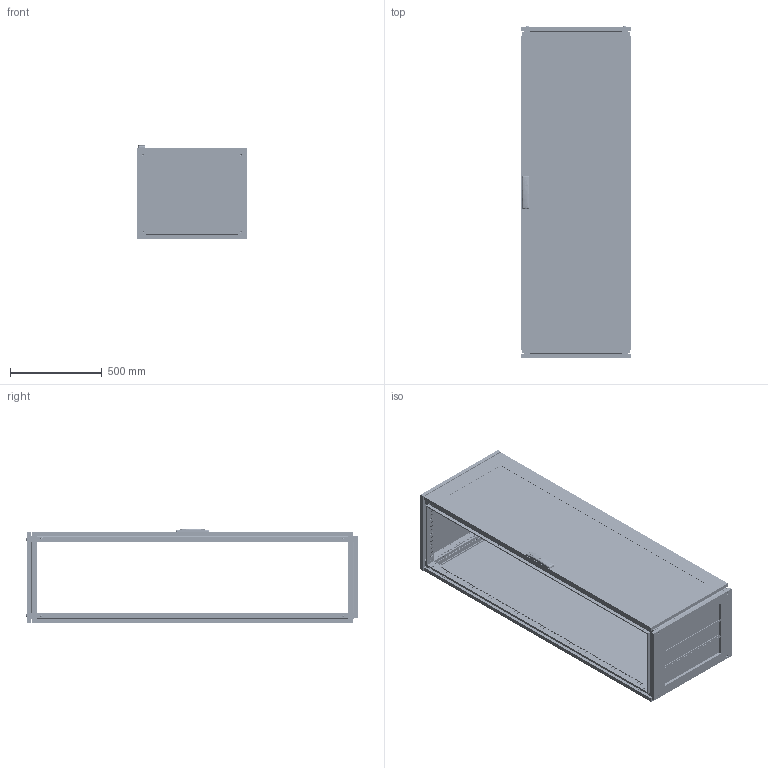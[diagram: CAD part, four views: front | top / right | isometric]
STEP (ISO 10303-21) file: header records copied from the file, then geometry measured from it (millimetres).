
FILE_DESCRIPTION (( 'STEP AP203' ), '1' );
FILE_NAME ('R5CQEN1865AX.STEP', '2025-05-07T11:56:37', ( '' ), ( '' ), 'SwSTEP 2.0', 'SolidWorks 2022', '' );
FILE_SCHEMA (( 'CONFIG_CONTROL_DESIGN' ));
Length unit declared in the file: millimetre
Products named in the file (65): RB.2685.00.00.0 simple_-01; M6x10 DIN 7500 E HX cl.5.8 Zinc_straight; R5CQEN1865AX; 7 DIN 6799 Zinc simple; RB.2052.01.00.0 СБ simple_-17; Pressing stud FH-M6-12_M6x12mm; M6 DIN 985 cl.6,0 Zinc_straight; M8x12 AC00C476 cl.8,8 Zinc_stright; RB.0528.04.00.0 СБ simple; RB.2499.01.00.0 СБ simple_-12; RB.2455.00.00.0 simple_-02; R5NKTB - Assem simple_H=1800 R5NKTB65; RB.2696.00.00.0 simple; PF 7x14 CRE simple_1800x0600; PF 5x10 KTB simple_600х500; RB.2680.00.00.0 СБ simple; RB.2357.00.00.0 simple_-03; RB.0562.01.01.0 simple_-12; M6 MGR-MKO-0625 simple_Thread; M6x10 DIN 7500 M Torx cl.5.8 Zinc_straight; RB.1867.01.00.0 СБ simple_-55; R5NCPTE - Assem simple_R5NCPTE1860; М6х12 A5100231_straight; RB.2969.00.00.0 СБ simple; RB.2686.00.00.0 simple; R5NCRE-Assem simple_R5NCRE1860; TPA.08.0083.00.00.0 simple; R5NKMN - Assem simple_R5NKMN18 (600х500); RB.2702.00.00.0 simple; Square cap 20x20 simple; RB.1867.01.01.0 simple_-39; RB.2969.00.01.0 simple; M6x15 Erickson cl.4,8 Zinc; Glue CPTE simple_1800x0600; RB.0562.00.00.0 СБ simple_-12; 4.8x13 DIN 7981 PH Zinc_straight; AC00C446-R; 7 DIN 6799 Zinc; M6x10 DIN 912 HX cl.8,8 Zinc_straight; RB.0562.01.00.0 СБ simple_-12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
Assembly tree (173 placements, depth 5):
  R5CQEN1865AX
    R5NCPTE - Assem simple_R5NCPTE1860
      RB.0562.00.00.0 СБ simple_-12
        RB.0562.01.00.0 СБ simple_-12
          RB.0562.01.01.0 simple_-12
          М6х12 A5100231_straight  x7
          RB.2702.00.00.0 simple  x4
          PF 7,5x15 CPE simple_1800x0600
          Glass CPTE_1800x0600
          Glue CPTE simple_1800x0600
        Square cap 20x20 simple  x2
        M6x15 Erickson cl.4,8 Zinc  x2
        RB.0528.00.01.0 simple_-04  x2
        ATOS Traction guide ILY03.35  x4
        RB.2357.00.00.0 simple_-03
        RB.2680.00.00.0 СБ simple
          TPA.08.0139.00.01.0 simple
          RB.2680.00.01.0 simple
          RB.2680.00.02.0 simple  x2
        TPA.08.0139.00.03.0  x2
        M6 DIN 985 cl.6,0 Zinc_straight  x4
        4,0x16 F Torx Zinc (ART 88200)_thread  x2
        RB.0528.04.00.0 СБ simple  x2
          RB.0528.04.01.0 simple
          Pressing stud FH-M6-12_M6x12mm
      M6x10 DIN 912 HX cl.8,8 Zinc_straight  x8
      4.8x13 DIN 7981 PH Zinc_straight
      7 DIN 6799 Zinc simple  x4
      RB.2968.00.00.0 simple  x4
      RB.2969.00.00.0 СБ simple  x4
        RB.2969.00.01.0 simple
        Pin 4x16 DIN 7 AISI 303 (A1) simple
        M6 MGR-MKO-0625 simple_Thread
      AC00C446-R
      RB.2696.00.00.0 simple  x4
      7 DIN 6799 Zinc  x4
    R5NCRE-Assem simple_R5NCRE1860
      RB.2052.00.00.0 СБ simple_-17
        RB.2052.01.00.0 СБ simple_-17
          RB.0054.01.01.0 simple_-17
          М6х12 A5100231_straight  x4
        PF 7x14 CRE simple_1800x0600
      RB.2172.00.00.1 simple  x8
      M6x10 DIN 7500 E HX cl.5.8 Zinc_straight  x8
      M6x10 DIN 7500 M Torx cl.5.8 Zinc_straight  x8
    R5NKMN - Assem simple_R5NKMN18 (600х500)
      RB.2528.00.00.0 simple_-04  x4
    R5NKTB - Assem simple_H=1800 R5NKTB65
      RB.2499.00.00.0 СБ simple_-13
        RB.2499.01.00.0 СБ simple_-12
          RB.1633.00.01.0 simple_-02  x2
          RB.1633.00.02.0 simple_-01  x2
          PF 5x10 KTB simple_600х500
        RB.2457.00.00.0 СБ simple_-13
          RB.2455.00.00.0 simple_-02  x2
          RB.2456.00.00.0 simple_-01  x2
          TPA.08.0084.00.00.0 simple  x2
          TPA.08.0083.00.00.0 simple  x2
          M8x12 AC00C476 cl.8,8 Zinc_stright  x4
        RB.1957.00.00.0 simple_-05  x3
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Bounding box: 600 x 1813.3 x 514.74 mm (x, y, z)
Volume: 13424978.9 mm3; surface area: 11686346.8 mm2
Topology: 176 solids, 192 shells, 20813 faces, 58799 edges, 38691 vertices
Faces by surface type: plane 11739, cylinder 7533, cone 704, bspline 435, torus 368, sphere 34
Entity records: 209417 total; most frequent: CARTESIAN_POINT 52791, ORIENTED_EDGE 30954, DIRECTION 29395, EDGE_CURVE 15503, VERTEX_POINT 10258, AXIS2_PLACEMENT_3D 9853, LINE 9689, VECTOR 9689
